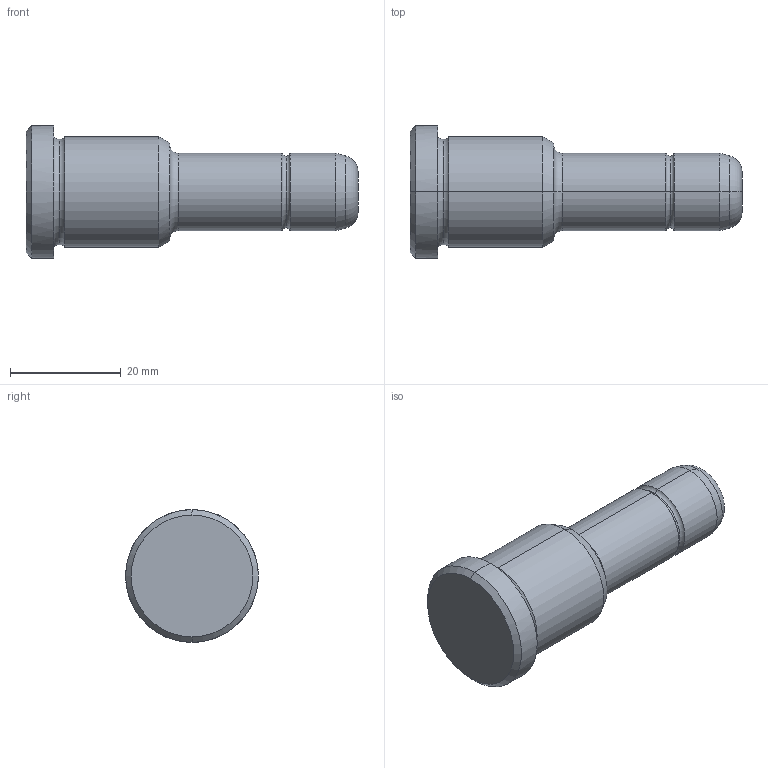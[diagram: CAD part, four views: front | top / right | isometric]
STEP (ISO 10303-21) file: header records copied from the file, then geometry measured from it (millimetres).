
FILE_DESCRIPTION(('CATIA V5 STEP Exchange'),'2;1');
FILE_NAME('C:\Users\Utente\Desktop\IO LAVORO\3D X SITO CF\X SITO\PLASTICA\351\351-14X26X60.stp','2021-08-18T09:56:48+00:00',('none'),('none'),'CATIA Version 5 Release 20 GA (IN-10)','CATIA V5 STEP AP203','none');
FILE_SCHEMA(('CONFIG_CONTROL_DESIGN'));
Length unit declared in the file: millimetre
Products named in the file (1): 351-14X26X60
Bounding box: 60 x 24 x 24 mm (x, y, z)
Volume: 13816.8 mm3; surface area: 3918.1 mm2
Topology: 1 solids, 1 shells, 30 faces, 86 edges, 60 vertices
Faces by surface type: torus 12, cylinder 8, cone 6, plane 4
Entity records: 1112 total; most frequent: CARTESIAN_POINT 289, ORIENTED_EDGE 172, DIRECTION 138, AXIS2_PLACEMENT_3D 95, EDGE_CURVE 86, CIRCLE 64, VERTEX_POINT 60, EDGE_LOOP 32
